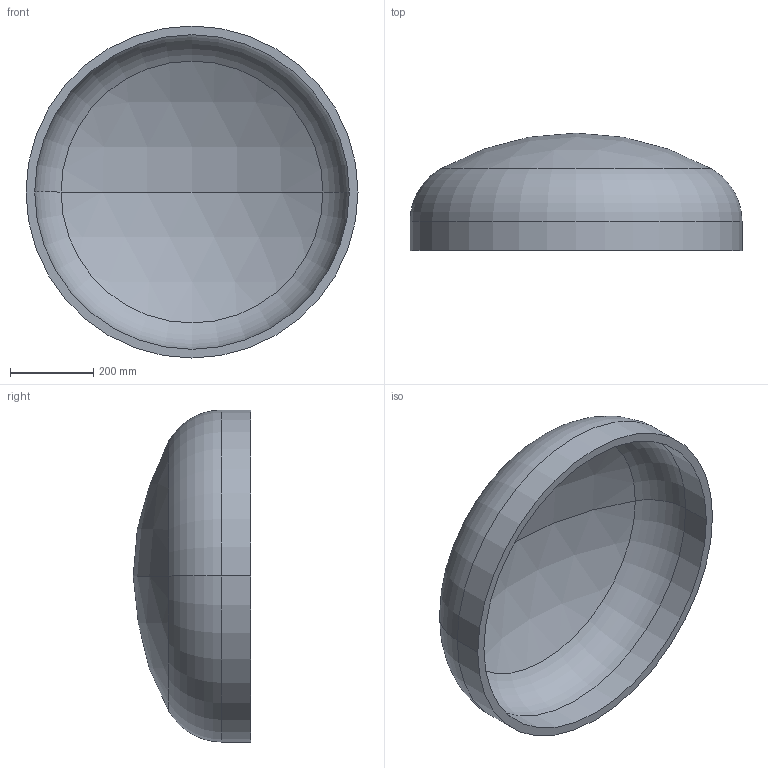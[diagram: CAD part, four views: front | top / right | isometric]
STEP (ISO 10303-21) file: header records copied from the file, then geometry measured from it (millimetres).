
FILE_DESCRIPTION (( 'STEP AP203' ), '1' );
FILE_NAME ('DIN 28013 Korbbogenform_-_Boden DIN 28013 - 800 x 70 - I - s=21.step', '2016-07-01T08:13:54', ( '' ), ( '' ), 'SwSTEP 2.0', 'SolidWorks 2013', '' );
FILE_SCHEMA (( 'CONFIG_CONTROL_DESIGN' ));
Length unit declared in the file: millimetre
Products named in the file (1): DIN 28013 Korbbogenform_-_Boden DIN 28013 - 800 x 70 - I - s=21
Bounding box: 800 x 282.99 x 800 mm (x, y, z)
Volume: 17764068.5 mm3; surface area: 1744132.5 mm2
Topology: 1 solids, 1 shells, 13 faces, 24 edges, 14 vertices
Faces by surface type: torus 4, cylinder 4, sphere 4, plane 1
Entity records: 407 total; most frequent: DIRECTION 72, CARTESIAN_POINT 52, ORIENTED_EDGE 48, AXIS2_PLACEMENT_3D 34, EDGE_CURVE 24, CIRCLE 20, EDGE_LOOP 14, VERTEX_POINT 14
